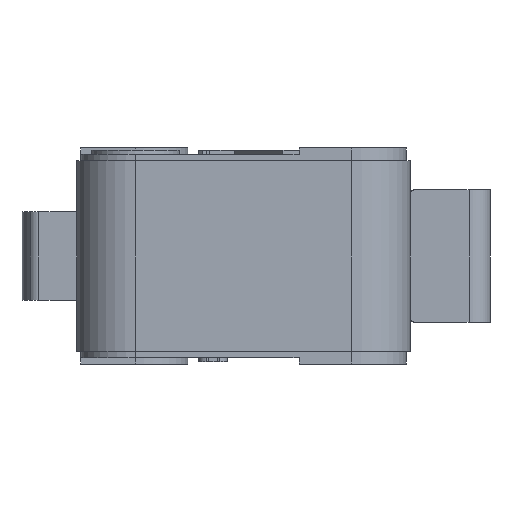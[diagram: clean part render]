
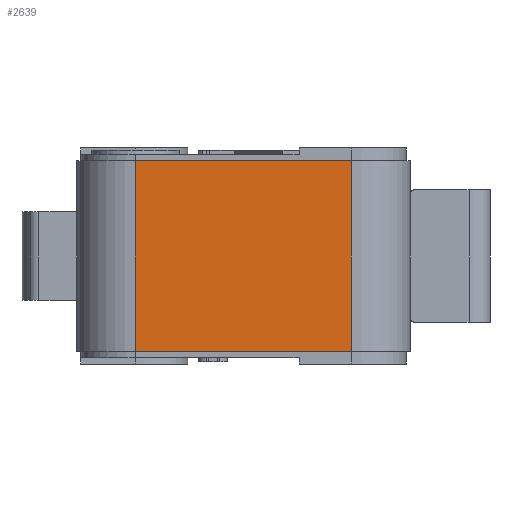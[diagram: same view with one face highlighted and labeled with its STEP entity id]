
A CAD part, left-side view. The second image highlights one B-rep face of the part: STEP entity #2639.
In plain terms, the highlighted planar face has unit normal (-1, 0, 0).
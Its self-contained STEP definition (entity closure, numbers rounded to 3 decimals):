
#2572=CARTESIAN_POINT('',(-13.9,5.15,-4.55));
#2573=VERTEX_POINT('',#2572);
#2574=CARTESIAN_POINT('',(-13.9,5.15,4.55));
#2575=VERTEX_POINT('',#2574);
#2576=CARTESIAN_POINT('',(-13.9,5.15,-4.55));
#2577=DIRECTION('',(0.0,0.0,1.0));
#2578=VECTOR('',#2577,9.1);
#2579=LINE('',#2576,#2578);
#2580=EDGE_CURVE('',#2573,#2575,#2579,.T.);
#2609=CARTESIAN_POINT('',(-13.9,-5.15,-4.55));
#2610=DIRECTION('',(-1.0,0.0,0.0));
#2611=DIRECTION('',(0.0,0.0,1.0));
#2612=AXIS2_PLACEMENT_3D('',#2609,#2610,#2611);
#2613=PLANE('',#2612);
#2614=CARTESIAN_POINT('',(-13.9,-5.15,4.55));
#2615=VERTEX_POINT('',#2614);
#2616=CARTESIAN_POINT('',(-13.9,-5.15,4.55));
#2617=DIRECTION('',(0.0,1.0,0.0));
#2618=VECTOR('',#2617,10.3);
#2619=LINE('',#2616,#2618);
#2620=EDGE_CURVE('',#2615,#2575,#2619,.T.);
#2621=ORIENTED_EDGE('',*,*,#2620,.T.);
#2622=ORIENTED_EDGE('',*,*,#2580,.F.);
#2623=CARTESIAN_POINT('',(-13.9,-5.15,-4.55));
#2624=VERTEX_POINT('',#2623);
#2625=CARTESIAN_POINT('',(-13.9,5.15,-4.55));
#2626=DIRECTION('',(0.0,-1.0,0.0));
#2627=VECTOR('',#2626,10.3);
#2628=LINE('',#2625,#2627);
#2629=EDGE_CURVE('',#2573,#2624,#2628,.T.);
#2630=ORIENTED_EDGE('',*,*,#2629,.T.);
#2631=CARTESIAN_POINT('',(-13.9,-5.15,-4.55));
#2632=DIRECTION('',(0.0,0.0,1.0));
#2633=VECTOR('',#2632,9.1);
#2634=LINE('',#2631,#2633);
#2635=EDGE_CURVE('',#2624,#2615,#2634,.T.);
#2636=ORIENTED_EDGE('',*,*,#2635,.T.);
#2637=EDGE_LOOP('',(#2621,#2622,#2630,#2636));
#2638=FACE_OUTER_BOUND('',#2637,.T.);
#2639=ADVANCED_FACE('',(#2638),#2613,.T.);
